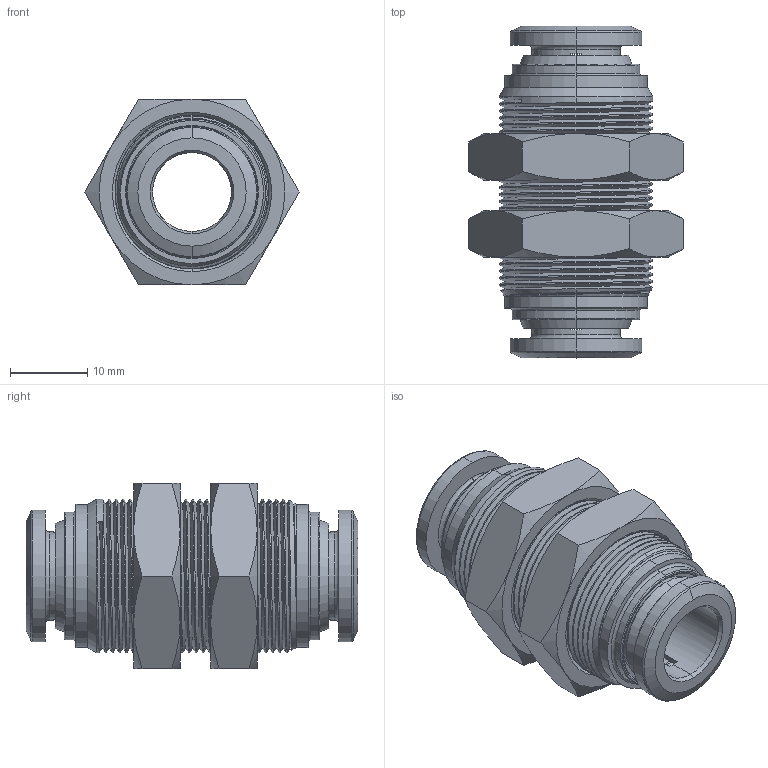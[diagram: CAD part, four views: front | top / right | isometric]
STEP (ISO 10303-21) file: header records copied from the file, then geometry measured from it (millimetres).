
FILE_DESCRIPTION (( 'STEP AP214' ), '1' );
FILE_NAME ('40050V0004A.STEP', '2016-05-16T13:49:23', ( '' ), ( '' ), 'SwSTEP 2.0', 'SolidWorks 2016', '' );
FILE_SCHEMA (( 'AUTOMOTIVE_DESIGN' ));
Length unit declared in the file: millimetre
Products named in the file (1): 40050V0004A
Bounding box: 27.71 x 42.9 x 24 mm (x, y, z)
Surface area: 7458.9 mm2 (no closed solid volume)
Topology: 0 solids, 7 shells, 205 faces, 548 edges, 351 vertices
Faces by surface type: cylinder 84, cone 58, plane 37, torus 24, bspline 2
Entity records: 12106 total; most frequent: CARTESIAN_POINT 5066, ORIENTED_EDGE 1012, DIRECTION 975, EDGE_CURVE 548, AXIS2_PLACEMENT_3D 397, VERTEX_POINT 351, EDGE_LOOP 221, UNCERTAINTY_MEASURE_WITH_UNIT 207
